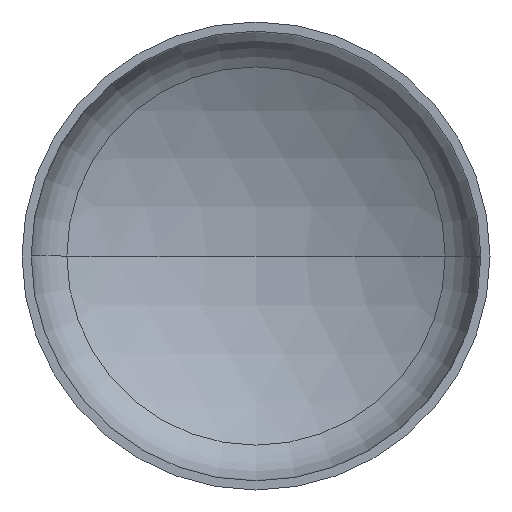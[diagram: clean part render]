
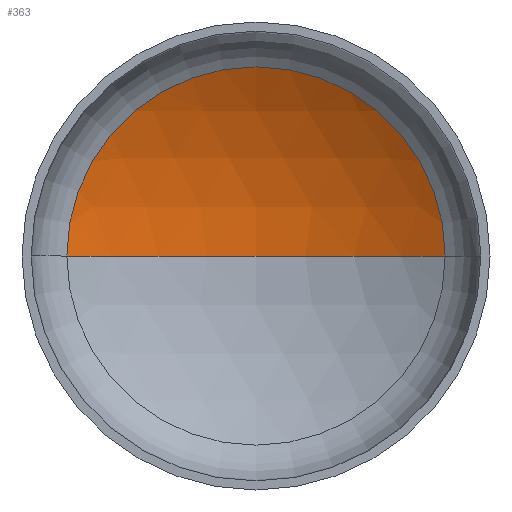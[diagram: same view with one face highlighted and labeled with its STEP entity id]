
A CAD part, front view. The second image highlights one B-rep face of the part: STEP entity #363.
In plain terms, the highlighted spherical face has radius 4000 mm.
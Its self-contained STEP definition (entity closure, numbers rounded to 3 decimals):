
#1 = AXIS2_PLACEMENT_3D ( 'NONE', #242, #46, #35 ) ;
#2 = AXIS2_PLACEMENT_3D ( 'NONE', #411, #270, #69 ) ;
#9 = AXIS2_PLACEMENT_3D ( 'NONE', #248, #335, #175 ) ;
#13 = AXIS2_PLACEMENT_3D ( 'NONE', #314, #404, #261 ) ;
#35 = DIRECTION ( 'NONE',  ( -1., 0., 0. ) ) ;
#41 = VERTEX_POINT ( 'NONE', #394 ) ;
#46 = DIRECTION ( 'NONE',  ( 0., 0., -1. ) ) ;
#53 = ORIENTED_EDGE ( 'NONE', *, *, #368, .T. ) ;
#69 = DIRECTION ( 'NONE',  ( -1., 0., 0. ) ) ;
#73 = ORIENTED_EDGE ( 'NONE', *, *, #345, .F. ) ;
#107 = SPHERICAL_SURFACE ( 'NONE', #1, 4000. ) ;
#109 = EDGE_LOOP ( 'NONE', ( #73, #53, #197 ) ) ;
#110 = VERTEX_POINT ( 'NONE', #151 ) ;
#135 = CIRCLE ( 'NONE', #13, 2021.053 ) ;
#151 = CARTESIAN_POINT ( 'NONE',  ( 2021.053, 764.483, 0. ) ) ;
#166 = CARTESIAN_POINT ( 'NONE',  ( -2021.053, 764.483, 0. ) ) ;
#175 = DIRECTION ( 'NONE',  ( 1., 0., 0. ) ) ;
#178 = VERTEX_POINT ( 'NONE', #166 ) ;
#197 = ORIENTED_EDGE ( 'NONE', *, *, #325, .T. ) ;
#212 = FACE_OUTER_BOUND ( 'NONE', #109, .T. ) ;
#242 = CARTESIAN_POINT ( 'NONE',  ( 0., -2687.378, 0. ) ) ;
#248 = CARTESIAN_POINT ( 'NONE',  ( 0., -2687.378, 0. ) ) ;
#261 = DIRECTION ( 'NONE',  ( 1., 0., 0. ) ) ;
#270 = DIRECTION ( 'NONE',  ( 0., 0., -1. ) ) ;
#314 = CARTESIAN_POINT ( 'NONE',  ( 0., 764.483, 0. ) ) ;
#325 = EDGE_CURVE ( 'NONE', #110, #178, #135, .T. ) ;
#335 = DIRECTION ( 'NONE',  ( 0., 0., 1. ) ) ;
#344 = CIRCLE ( 'NONE', #9, 4000. ) ;
#345 = EDGE_CURVE ( 'NONE', #41, #178, #344, .T. ) ;
#363 = ADVANCED_FACE ( 'NONE', ( #212 ), #107, .F. ) ;
#368 = EDGE_CURVE ( 'NONE', #41, #110, #393, .T. ) ;
#393 = CIRCLE ( 'NONE', #2, 4000. ) ;
#394 = CARTESIAN_POINT ( 'NONE',  ( 0., 1312.622, 0. ) ) ;
#404 = DIRECTION ( 'NONE',  ( 0., -1., 0. ) ) ;
#411 = CARTESIAN_POINT ( 'NONE',  ( 0., -2687.378, 0. ) ) ;
